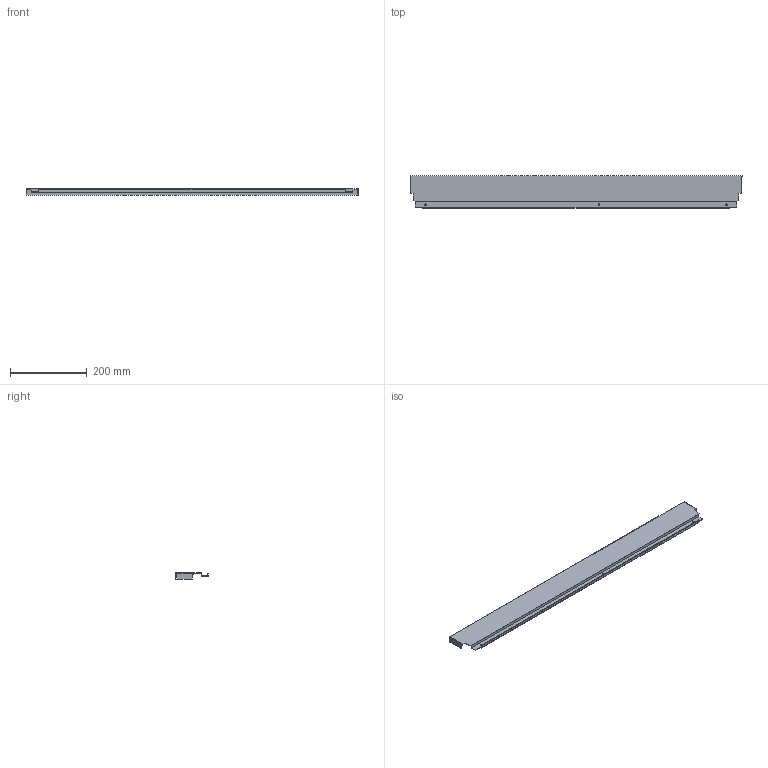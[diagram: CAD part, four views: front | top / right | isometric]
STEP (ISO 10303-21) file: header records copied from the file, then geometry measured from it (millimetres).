
FILE_DESCRIPTION (( 'STEP AP214' ), '1' );
FILE_NAME ('_DWD_XP Stahlrückwand_H86_KAB950_S17.step', '2010-07-08T12:10:14', ( 'grass' ), ( '' ), 'SwSTEP 2.0', 'SolidWorks 2010', '' );
FILE_SCHEMA (( 'AUTOMOTIVE_DESIGN' ));
Length unit declared in the file: millimetre
Products named in the file (1): _DWD_XP Stahlrückwand_H86_KAB950_S17
Bounding box: 867 x 85.79 x 16 mm (x, y, z)
Volume: 92976.2 mm3; surface area: 201749 mm2
Topology: 1 solids, 1 shells, 50 faces, 144 edges, 96 vertices
Faces by surface type: plane 44, cylinder 6
Entity records: 1666 total; most frequent: CARTESIAN_POINT 291, ORIENTED_EDGE 288, DIRECTION 258, EDGE_CURVE 144, LINE 132, VECTOR 132, VERTEX_POINT 96, AXIS2_PLACEMENT_3D 63
